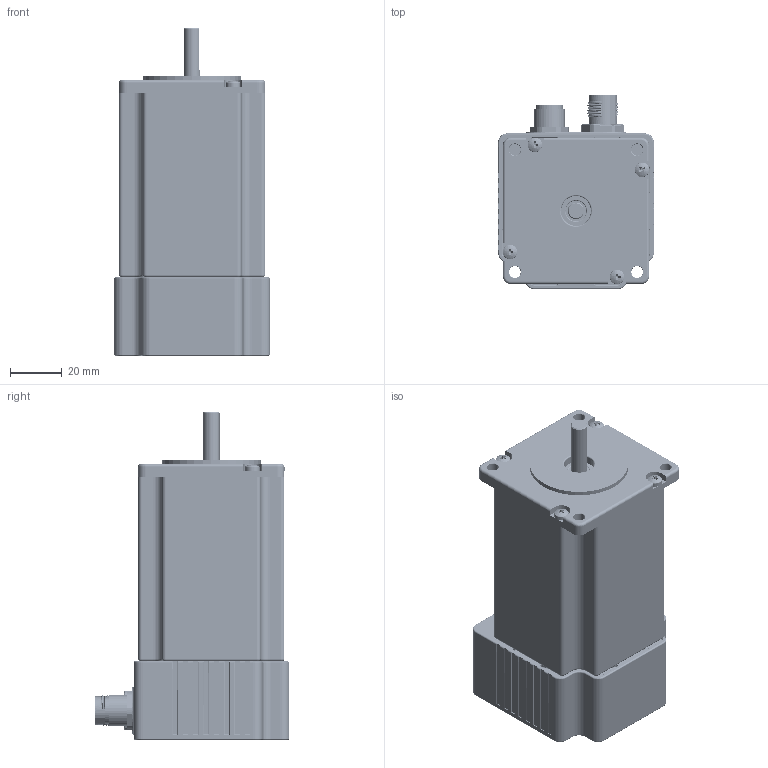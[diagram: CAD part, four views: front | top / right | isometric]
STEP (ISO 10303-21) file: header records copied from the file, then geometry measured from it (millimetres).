
FILE_DESCRIPTION (( 'STEP AP214' ), '1' );
FILE_NAME ('M57SH76-TO0512L05C.STEP', '2025-05-17T08:57:01', ( '' ), ( '' ), 'SwSTEP 2.0', 'SolidWorks 2019', '' );
FILE_SCHEMA (( 'AUTOMOTIVE_DESIGN' ));
Length unit declared in the file: millimetre
Products named in the file (1): M57SH76-TO0512L05C
Bounding box: 60 x 74.9 x 126.4 mm (x, y, z)
Volume: 120289.5 mm3; surface area: 93462.2 mm2
Topology: 18 solids, 18 shells, 5491 faces, 14207 edges, 8916 vertices
Faces by surface type: plane 1934, cylinder 1580, bspline 754, torus 603, cone 559, sphere 61
Entity records: 270035 total; most frequent: CARTESIAN_POINT 78888, ORIENTED_EDGE 28250, DIRECTION 26246, EDGE_CURVE 14125, AXIS2_PLACEMENT_3D 9760, VERTEX_POINT 8916, VECTOR 6726, LINE 6726
